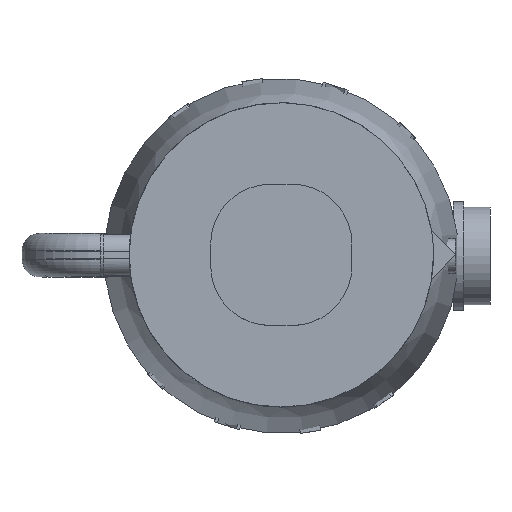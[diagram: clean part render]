
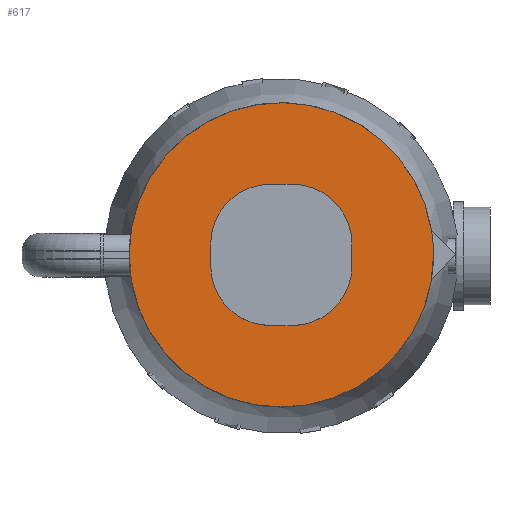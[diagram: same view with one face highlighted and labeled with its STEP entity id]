
A CAD part, top view. The second image highlights one B-rep face of the part: STEP entity #617.
In plain terms, the highlighted planar face has unit normal (0, 0, 1).
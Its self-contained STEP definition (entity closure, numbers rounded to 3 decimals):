
#103=FACE_BOUND('',#1281,.T.);
#104=FACE_BOUND('',#1282,.T.);
#370=CIRCLE('',#4552,70.);
#371=CIRCLE('',#4553,27.5);
#372=CIRCLE('',#4554,27.5);
#373=CIRCLE('',#4555,27.5);
#374=CIRCLE('',#4556,27.5);
#617=ADVANCED_FACE('',(#103,#104),#803,.T.);
#803=PLANE('',#4557);
#1281=EDGE_LOOP('',(#2749));
#1282=EDGE_LOOP('',(#2750,#2751,#2752,#2753,#2754,#2755,#2756,#2757));
#1495=LINE('',#8893,#1729);
#1496=LINE('',#8898,#1730);
#1497=LINE('',#8902,#1731);
#1498=LINE('',#8906,#1732);
#1729=VECTOR('',#5305,1.);
#1730=VECTOR('',#5308,1.);
#1731=VECTOR('',#5311,1.);
#1732=VECTOR('',#5314,1.);
#2749=ORIENTED_EDGE('',*,*,#3873,.T.);
#2750=ORIENTED_EDGE('',*,*,#3874,.T.);
#2751=ORIENTED_EDGE('',*,*,#3875,.T.);
#2752=ORIENTED_EDGE('',*,*,#3876,.T.);
#2753=ORIENTED_EDGE('',*,*,#3877,.T.);
#2754=ORIENTED_EDGE('',*,*,#3878,.T.);
#2755=ORIENTED_EDGE('',*,*,#3879,.T.);
#2756=ORIENTED_EDGE('',*,*,#3880,.T.);
#2757=ORIENTED_EDGE('',*,*,#3881,.T.);
#3314=VERTEX_POINT('',#8892);
#3315=VERTEX_POINT('',#8894);
#3316=VERTEX_POINT('',#8895);
#3317=VERTEX_POINT('',#8897);
#3318=VERTEX_POINT('',#8899);
#3319=VERTEX_POINT('',#8901);
#3320=VERTEX_POINT('',#8903);
#3321=VERTEX_POINT('',#8905);
#3322=VERTEX_POINT('',#8907);
#3873=EDGE_CURVE('',#3314,#3314,#370,.T.);
#3874=EDGE_CURVE('',#3315,#3316,#1495,.T.);
#3875=EDGE_CURVE('',#3316,#3317,#371,.T.);
#3876=EDGE_CURVE('',#3317,#3318,#1496,.T.);
#3877=EDGE_CURVE('',#3318,#3319,#372,.T.);
#3878=EDGE_CURVE('',#3319,#3320,#1497,.T.);
#3879=EDGE_CURVE('',#3320,#3321,#373,.T.);
#3880=EDGE_CURVE('',#3321,#3322,#1498,.T.);
#3881=EDGE_CURVE('',#3322,#3315,#374,.T.);
#4552=AXIS2_PLACEMENT_3D('',#8891,#5303,#5304);
#4553=AXIS2_PLACEMENT_3D('',#8896,#5306,#5307);
#4554=AXIS2_PLACEMENT_3D('',#8900,#5309,#5310);
#4555=AXIS2_PLACEMENT_3D('',#8904,#5312,#5313);
#4556=AXIS2_PLACEMENT_3D('',#8908,#5315,#5316);
#4557=AXIS2_PLACEMENT_3D('',#8909,#5317,#5318);
#5303=DIRECTION('',(0.,0.,1.));
#5304=DIRECTION('',(1.,0.,0.));
#5305=DIRECTION('',(-1.,0.,0.));
#5306=DIRECTION('',(0.,0.,-1.));
#5307=DIRECTION('',(1.,0.,0.));
#5308=DIRECTION('',(0.,1.,0.));
#5309=DIRECTION('',(0.,0.,-1.));
#5310=DIRECTION('',(1.,0.,0.));
#5311=DIRECTION('',(1.,0.,0.));
#5312=DIRECTION('',(0.,0.,-1.));
#5313=DIRECTION('',(1.,0.,0.));
#5314=DIRECTION('',(0.,-1.,0.));
#5315=DIRECTION('',(0.,0.,-1.));
#5316=DIRECTION('',(1.,0.,0.));
#5317=DIRECTION('',(0.,0.,1.));
#5318=DIRECTION('',(1.,0.,0.));
#8891=CARTESIAN_POINT('',(-110.,0.,458.9));
#8892=CARTESIAN_POINT('',(-40.,0.,458.9));
#8893=CARTESIAN_POINT('',(-110.,-32.5,458.9));
#8894=CARTESIAN_POINT('',(-105.,-32.5,458.9));
#8895=CARTESIAN_POINT('',(-115.,-32.5,458.9));
#8896=CARTESIAN_POINT('',(-115.,-5.,458.9));
#8897=CARTESIAN_POINT('',(-142.5,-5.,458.9));
#8898=CARTESIAN_POINT('',(-142.5,0.,458.9));
#8899=CARTESIAN_POINT('',(-142.5,5.,458.9));
#8900=CARTESIAN_POINT('',(-115.,5.,458.9));
#8901=CARTESIAN_POINT('',(-115.,32.5,458.9));
#8902=CARTESIAN_POINT('',(-110.,32.5,458.9));
#8903=CARTESIAN_POINT('',(-105.,32.5,458.9));
#8904=CARTESIAN_POINT('',(-105.,5.,458.9));
#8905=CARTESIAN_POINT('',(-77.5,5.,458.9));
#8906=CARTESIAN_POINT('',(-77.5,0.,458.9));
#8907=CARTESIAN_POINT('',(-77.5,-5.,458.9));
#8908=CARTESIAN_POINT('',(-105.,-5.,458.9));
#8909=CARTESIAN_POINT('',(-110.,0.,458.9));
